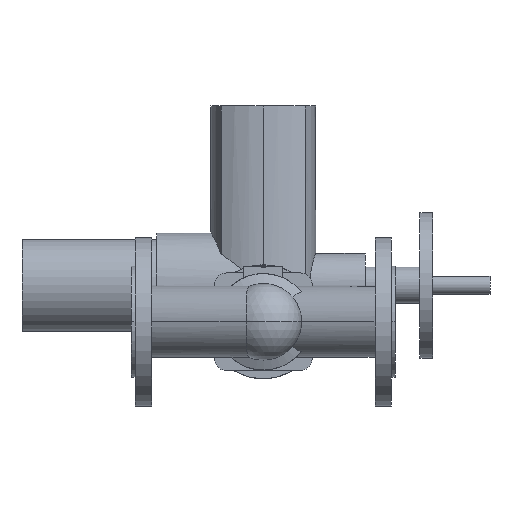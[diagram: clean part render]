
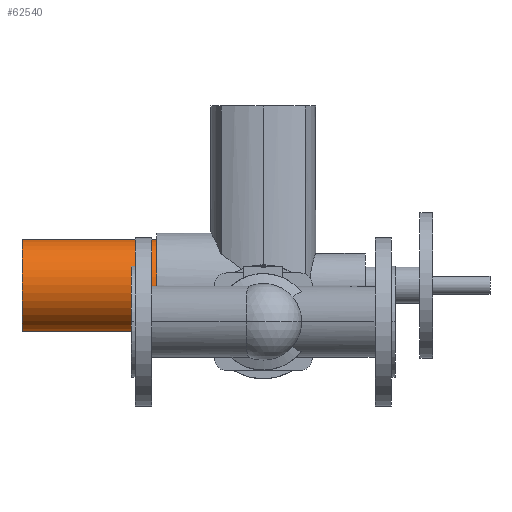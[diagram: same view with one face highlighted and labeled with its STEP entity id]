
A CAD part, front view. The second image highlights one B-rep face of the part: STEP entity #62540.
In plain terms, the highlighted cylindrical face has radius 50.5 mm (diameter 101 mm), a partial arc.
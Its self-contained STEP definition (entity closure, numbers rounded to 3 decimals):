
#62130=CARTESIAN_POINT('',(-46.,435.,40.));
#62140=DIRECTION('',(1.,0.,0.));
#62150=DIRECTION('',(0.,0.,-1.));
#62160=AXIS2_PLACEMENT_3D('',#62130,#62140,#62150);
#62170=CYLINDRICAL_SURFACE('',#62160,50.5);
#62180=CARTESIAN_POINT('',(-46.,435.,90.5));
#62190=DIRECTION('',(1.,0.,0.));
#62200=VECTOR('',#62190,1.);
#62210=LINE('',#62180,#62200);
#62220=CARTESIAN_POINT('',(-120.,435.,90.5));
#62230=VERTEX_POINT('',#62220);
#62240=CARTESIAN_POINT('',(28.,435.,90.5));
#62250=VERTEX_POINT('',#62240);
#62260=EDGE_CURVE('',#62230,#62250,#62210,.T.);
#62270=ORIENTED_EDGE('',*,*,#62260,.F.);
#62280=CARTESIAN_POINT('',(28.,435.,40.));
#62290=DIRECTION('',(-1.,0.,0.));
#62300=DIRECTION('',(0.,0.,-1.));
#62310=AXIS2_PLACEMENT_3D('',#62280,#62290,#62300);
#62320=CIRCLE('',#62310,50.5);
#62330=CARTESIAN_POINT('',(28.,435.,-10.5));
#62340=VERTEX_POINT('',#62330);
#62350=EDGE_CURVE('',#62340,#62250,#62320,.T.);
#62360=ORIENTED_EDGE('',*,*,#62350,.T.);
#62370=CARTESIAN_POINT('',(-46.,435.,-10.5));
#62380=DIRECTION('',(1.,0.,0.));
#62390=VECTOR('',#62380,1.);
#62400=LINE('',#62370,#62390);
#62410=CARTESIAN_POINT('',(-120.,435.,-10.5));
#62420=VERTEX_POINT('',#62410);
#62430=EDGE_CURVE('',#62420,#62340,#62400,.T.);
#62440=ORIENTED_EDGE('',*,*,#62430,.T.);
#62450=CARTESIAN_POINT('',(-120.,435.,40.));
#62460=DIRECTION('',(-1.,0.,0.));
#62470=DIRECTION('',(0.,0.,-1.));
#62480=AXIS2_PLACEMENT_3D('',#62450,#62460,#62470);
#62490=CIRCLE('',#62480,50.5);
#62500=EDGE_CURVE('',#62420,#62230,#62490,.T.);
#62510=ORIENTED_EDGE('',*,*,#62500,.F.);
#62520=EDGE_LOOP('',(#62510,#62440,#62360,#62270));
#62530=FACE_OUTER_BOUND('',#62520,.T.);
#62540=ADVANCED_FACE('',(#62530),#62170,.T.);
